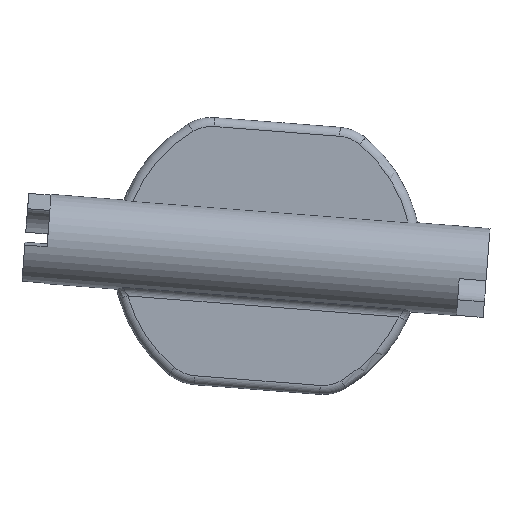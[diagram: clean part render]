
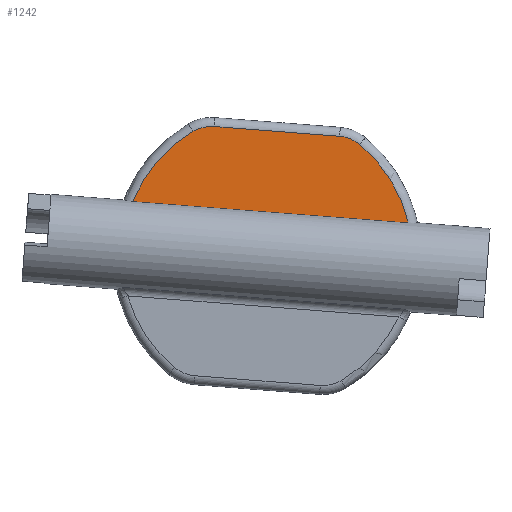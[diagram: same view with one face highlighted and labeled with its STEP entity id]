
A CAD part, front view. The second image highlights one B-rep face of the part: STEP entity #1242.
In plain terms, the highlighted planar face has unit normal (0, -1, 0).
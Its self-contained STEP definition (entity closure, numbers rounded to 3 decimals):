
#1=DIRECTION('',(0.997,0.,-0.077));
#2=VECTOR('',#1,30.925);
#3=CARTESIAN_POINT('',(967.413,-1.,117.616));
#4=LINE('',#3,#2);
#5=CARTESIAN_POINT('',(982.45,-1.,111.536));
#6=DIRECTION('',(0.,1.,0.));
#7=DIRECTION('',(-0.927,0.,0.375));
#8=AXIS2_PLACEMENT_3D('',#5,#6,#7);
#10=CARTESIAN_POINT('',(976.193,-1.,122.033));
#11=DIRECTION('',(0.,1.,0.));
#12=DIRECTION('',(-0.512,0.,0.859));
#13=AXIS2_PLACEMENT_3D('',#10,#11,#12);
#15=DIRECTION('',(0.997,0.,-0.077));
#16=VECTOR('',#15,14.1);
#17=CARTESIAN_POINT('',(976.502,-1.,126.021));
#18=LINE('',#17,#16);
#19=CARTESIAN_POINT('',(990.25,-1.,120.943));
#20=DIRECTION('',(0.,1.,0.));
#21=DIRECTION('',(0.077,0.,0.997));
#22=AXIS2_PLACEMENT_3D('',#19,#20,#21);
#24=CARTESIAN_POINT('',(982.45,-1.,111.536));
#25=DIRECTION('',(0.,1.,0.));
#26=DIRECTION('',(0.638,0.,0.77));
#27=AXIS2_PLACEMENT_3D('',#24,#25,#26);
#1076=CARTESIAN_POINT('',(967.413,-1.,117.616));
#1077=CARTESIAN_POINT('',(998.245,-1.,115.225));
#1078=VERTEX_POINT('',#1076);
#1079=VERTEX_POINT('',#1077);
#1215=CARTESIAN_POINT('',(990.56,-1.,124.931));
#1216=CARTESIAN_POINT('',(992.804,-1.,124.022));
#1217=VERTEX_POINT('',#1215);
#1218=VERTEX_POINT('',#1216);
#1219=CARTESIAN_POINT('',(974.145,-1.,125.469));
#1220=VERTEX_POINT('',#1219);
#1221=CARTESIAN_POINT('',(976.502,-1.,126.021));
#1222=VERTEX_POINT('',#1221);
#1223=CARTESIAN_POINT('',(0.,-1.,0.));
#1224=DIRECTION('',(0.,1.,0.));
#1225=DIRECTION('',(1.,0.,0.));
#1226=AXIS2_PLACEMENT_3D('',#1223,#1224,#1225);
#1227=PLANE('',#1226);
#1229=ORIENTED_EDGE('',*,*,#1228,.F.);
#1231=ORIENTED_EDGE('',*,*,#1230,.T.);
#1233=ORIENTED_EDGE('',*,*,#1232,.T.);
#1235=ORIENTED_EDGE('',*,*,#1234,.T.);
#1237=ORIENTED_EDGE('',*,*,#1236,.T.);
#1239=ORIENTED_EDGE('',*,*,#1238,.T.);
#1240=EDGE_LOOP('',(#1229,#1231,#1233,#1235,#1237,#1239));
#1241=FACE_OUTER_BOUND('',#1240,.F.);
#1242=ADVANCED_FACE('',(#1241),#1227,.F.);
#9=CIRCLE('',#8,16.22);
#14=CIRCLE('',#13,4.);
#23=CIRCLE('',#22,4.);
#28=CIRCLE('',#27,16.22);
#1228=EDGE_CURVE('',#1078,#1079,#4,.T.);
#1230=EDGE_CURVE('',#1078,#1220,#9,.T.);
#1232=EDGE_CURVE('',#1220,#1222,#14,.T.);
#1234=EDGE_CURVE('',#1222,#1217,#18,.T.);
#1236=EDGE_CURVE('',#1217,#1218,#23,.T.);
#1238=EDGE_CURVE('',#1218,#1079,#28,.T.);
